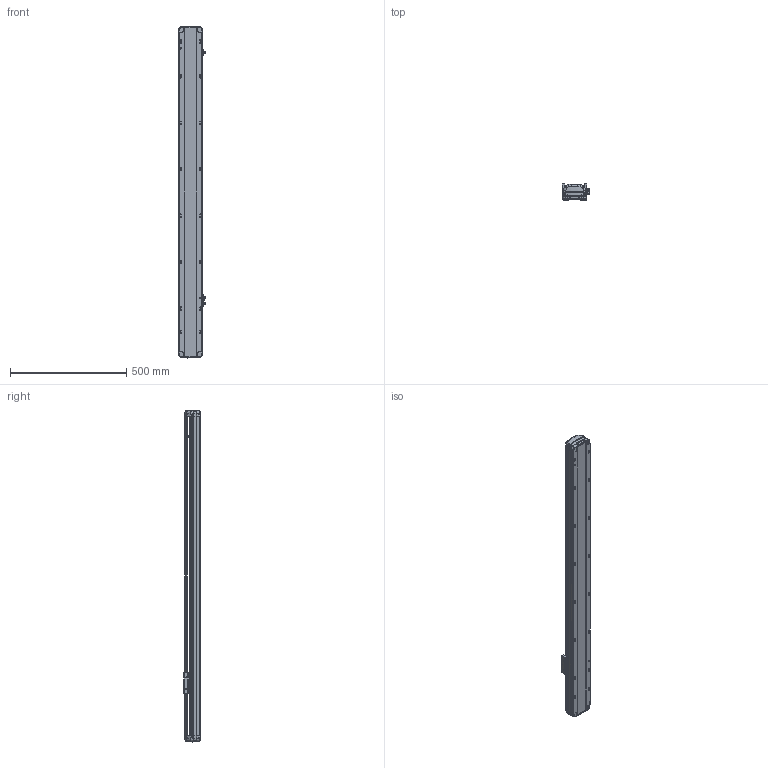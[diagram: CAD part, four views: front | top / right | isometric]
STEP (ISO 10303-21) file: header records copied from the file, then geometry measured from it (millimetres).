
FILE_DESCRIPTION (( 'STEP AP214' ), '1' );
FILE_NAME ('RTH10-XX-1050-B-M10-C4.STEP', '2025-10-25T05:18:36', ( 'Microsoft' ), ( 'Microsoft' ), 'SwSTEP 2.0', 'SolidWorks 2018', '' );
FILE_SCHEMA (( 'AUTOMOTIVE_DESIGN' ));
Length unit declared in the file: millimetre
Products named in the file (7): N_RTH12-GY-001P^RTH10-XX-XX-B-M10-C4; N_OMRON EE-SX672 传感器^RTH10-XX-XX-B-M10-C4; N_RTH13-L-012覜茼え俋离^RTH10-XX-XX-B-M10-C4; N_RTH12-B-007P-奻裔^RTH10-XX-XX-B-M10-C4; N_RTH12-B-011P-臏倰第菁釱^RTH10-XX-XX-B-M10-C4; N_RTH12-GY-004-賑釱^RTH10-XX-XX-B-M10-C4; RTH10-XX-1050-B-M10-C4
Assembly tree (9 placements, depth 2):
  RTH10-XX-1050-B-M10-C4
    N_RTH12-B-011P-臏倰第菁釱^RTH10-XX-XX-B-M10-C4
    N_RTH13-L-012覜茼え俋离^RTH10-XX-XX-B-M10-C4
    N_OMRON EE-SX672 传感器^RTH10-XX-XX-B-M10-C4  x3
    N_RTH12-B-007P-奻裔^RTH10-XX-XX-B-M10-C4
    N_RTH12-GY-004-賑釱^RTH10-XX-XX-B-M10-C4
    N_RTH12-GY-001P^RTH10-XX-XX-B-M10-C4  x2
Bounding box: 116.5 x 70 x 1429.29 mm (x, y, z)
Volume: 5336454.8 mm3; surface area: 840445.7 mm2
Topology: 7 solids, 11 shells, 2240 faces, 6298 edges, 4124 vertices
Faces by surface type: plane 1061, bspline 712, cylinder 447, cone 16, torus 4
Entity records: 51170 total; most frequent: CARTESIAN_POINT 22018, ORIENTED_EDGE 6724, DIRECTION 4786, EDGE_CURVE 3368, VERTEX_POINT 2211, LINE 1720, VECTOR 1720, AXIS2_PLACEMENT_3D 1533
